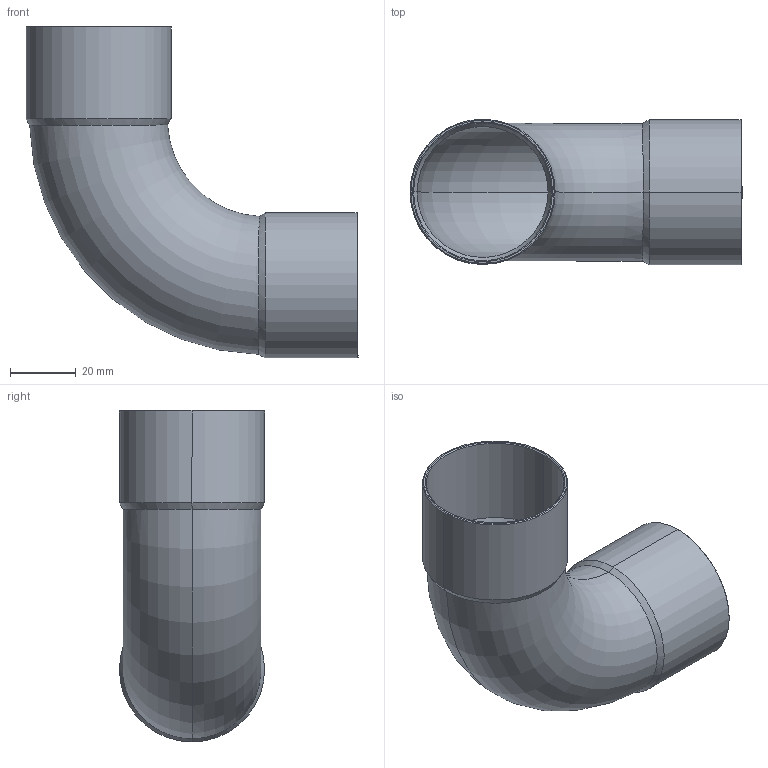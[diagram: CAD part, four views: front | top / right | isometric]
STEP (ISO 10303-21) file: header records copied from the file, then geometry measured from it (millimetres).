
FILE_DESCRIPTION((''),'2;1');
FILE_NAME('D:\5002\15002a42.stp','2005-10-04T11:48:14',('Kris'),(''),'Autodesk Inventor 8','Autodesk Inventor 8','');
FILE_SCHEMA(('AUTOMOTIVE_DESIGN { 1 0 10303 214 1 1 1 1 }'));
Length unit declared in the file: millimetre
Products named in the file (1): 15002a42
Bounding box: 101.1 x 44.2 x 101.1 mm (x, y, z)
Volume: 19777.1 mm3; surface area: 36205.1 mm2
Topology: 1 solids, 1 shells, 30 faces, 60 edges, 32 vertices
Faces by surface type: cone 12, bspline 9, torus 4, cylinder 4, plane 1
Entity records: 1031 total; most frequent: CARTESIAN_POINT 418, DIRECTION 124, ORIENTED_EDGE 120, EDGE_CURVE 60, AXIS2_PLACEMENT_3D 50, VERTEX_POINT 32, EDGE_LOOP 32, FACE_OUTER_BOUND 30
